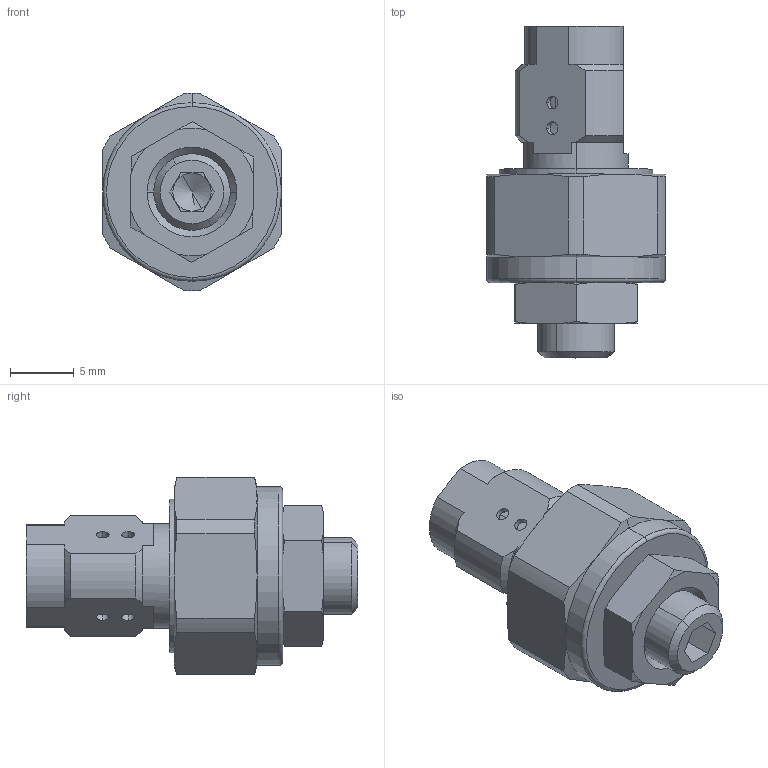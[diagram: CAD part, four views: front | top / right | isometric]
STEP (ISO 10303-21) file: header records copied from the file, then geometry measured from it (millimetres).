
FILE_DESCRIPTION (( 'STEP AP203' ), '1' );
FILE_NAME ('570100-B.step', '2016-11-02T03:07:25', ( 'wxp' ), ( '' ), 'SwSTEP 2.0', 'SolidWorks 2011', '' );
FILE_SCHEMA (( 'CONFIG_CONTROL_DESIGN' ));
Length unit declared in the file: millimetre
Products named in the file (6): 570100-B; 葩璃 KZF0100.03^570100-B; 葩璃 M6_J11-2^570100-B; 葩璃 12X8.2X1.05^570100-B; 葩璃 KZF0100.02^570100-B; 葩璃  KZF0100.01^570100-B
Assembly tree (5 placements, depth 2):
  570100-B
    葩璃  KZF0100.01^570100-B
    葩璃 KZF0100.02^570100-B
    葩璃 KZF0100.03^570100-B
    葩璃 M6_J11-2^570100-B
    葩璃 12X8.2X1.05^570100-B
Bounding box: 14 x 26 x 15.5 mm (x, y, z)
Volume: 2805.1 mm3; surface area: 2289.9 mm2
Topology: 5 solids, 5 shells, 196 faces, 463 edges, 290 vertices
Faces by surface type: cylinder 84, plane 52, cone 50, torus 10
Entity records: 6559 total; most frequent: CARTESIAN_POINT 1475, DIRECTION 943, ORIENTED_EDGE 922, EDGE_CURVE 461, AXIS2_PLACEMENT_3D 386, VERTEX_POINT 290, EDGE_LOOP 217, ADVANCED_FACE 196
